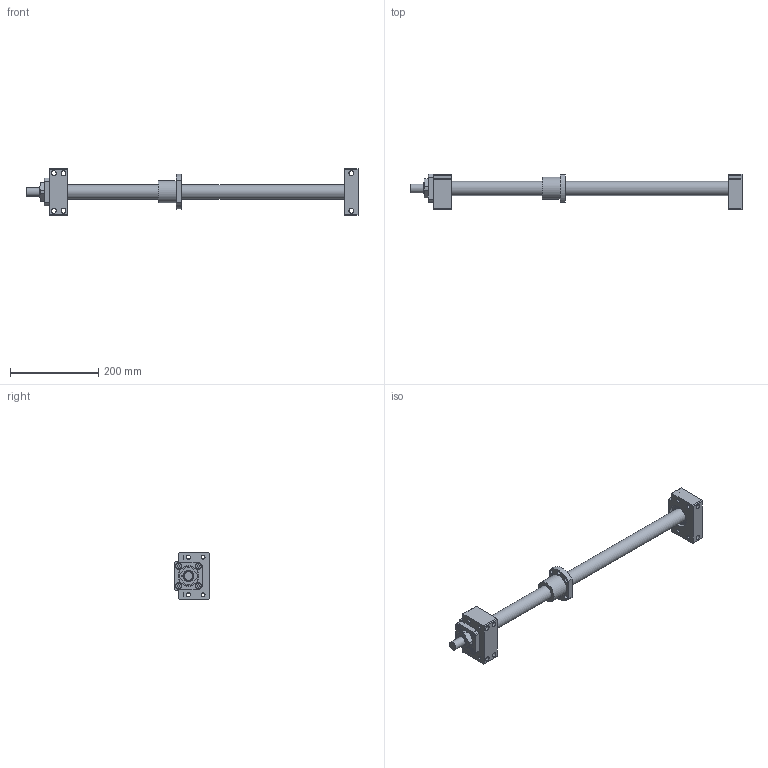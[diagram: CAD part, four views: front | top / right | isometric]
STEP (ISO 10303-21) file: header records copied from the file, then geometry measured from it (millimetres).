
FILE_DESCRIPTION(/* description */ ('','CAx-IF Rec.Pracs.---Representation and Presentation of Product Manufacturing Information (PMI)---4.0---2014-10-13'),/* implementation_level */ '2;1');
FILE_NAME(/* name */ 'F2RFU-3205-0750-BF25-BK25ASM v1.step',/* time_stamp */ '2024-12-17T10:41:54-05:00',/* author */ (''),/* organization */ (''),/* preprocessor_version */ 'ST-DEVELOPER v20',/* originating_system */ 'Autodesk Translation Framework v13.20.0.188',/* authorisation */ '');
FILE_SCHEMA (('AP242_MANAGED_MODEL_BASED_3D_ENGINEERING_MIM_LF { 1 0 10303 442 1 1 4 }'));
Length unit declared in the file: millimetre
Products named in the file (12): F2RFU-3205-0750-BF25-BK25ASM; 32xx_750; Screw32; BF25EndMach; BK25EndMach; BF25; BF 25 Part1; BF 25 Part2; BK25Yes; BK 25; BK 25collar; 32x5 Ball Nut
Assembly tree (11 placements, depth 3):
  F2RFU-3205-0750-BF25-BK25ASM
    32xx_750
      Screw32
      BF25EndMach
      BK25EndMach
    BF25
      BF 25 Part1
      BF 25 Part2
    BK25Yes
      BK 25
      BK 25collar
    32x5 Ball Nut
Bounding box: 752.5 x 80 x 106 mm (x, y, z)
Volume: 1148365.4 mm3; surface area: 209519.4 mm2
Topology: 8 solids, 9 shells, 243 faces, 633 edges, 429 vertices
Faces by surface type: plane 133, cylinder 86, cone 19, torus 5
Full cylindrical faces by diameter (mm): 5 x3, 9 x26, 11 x6, 12.8 x4, 13.8 x4, 17.5 x6, 20 x1, 23.376 x1, 23.9 x1, 24.884 x1, 25 x5, 31 x1, 31.3 x2, 32 x1, 32.2 x1, 33 x1, 33.6 x2, 39.6 x2, 43.4 x2, 45 x2, 45.1 x1, 50 x1, 52 x2
Entity records: 8991 total; most frequent: CARTESIAN_POINT 2543, ORIENTED_EDGE 1266, DIRECTION 1251, EDGE_CURVE 633, AXIS2_PLACEMENT_3D 462, VERTEX_POINT 429, EDGE_LOOP 340, LINE 327
